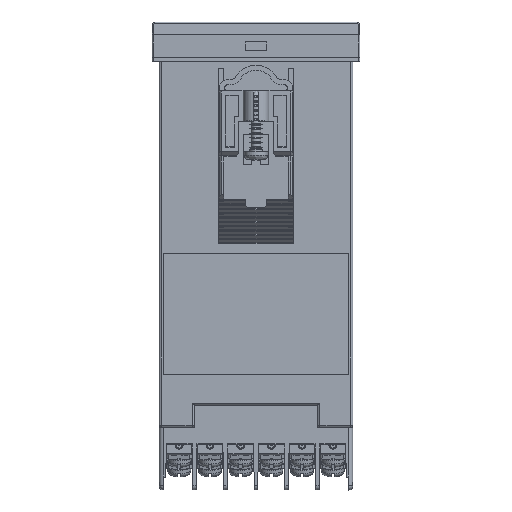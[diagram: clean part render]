
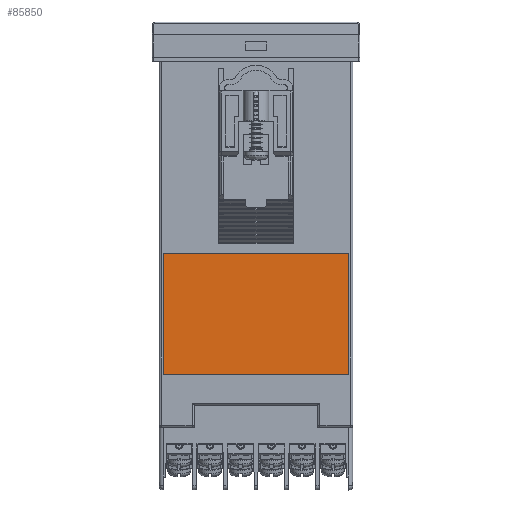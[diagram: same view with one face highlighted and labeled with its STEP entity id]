
A CAD part, front view. The second image highlights one B-rep face of the part: STEP entity #85850.
In plain terms, the highlighted planar face has unit normal (0, -1, 0).
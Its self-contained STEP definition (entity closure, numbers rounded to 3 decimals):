
#814 = LINE ( 'NONE', #193197, #352846 ) ;
#13796 = CARTESIAN_POINT ( 'NONE',  ( 21.4, -10.9, -78.65 ) ) ;
#15699 = EDGE_CURVE ( 'NONE', #271078, #320165, #203421, .T. ) ;
#22233 = ORIENTED_EDGE ( 'NONE', *, *, #347310, .F. ) ;
#37142 = DIRECTION ( 'NONE',  ( 0., 0., -1. ) ) ;
#37167 = ORIENTED_EDGE ( 'NONE', *, *, #216999, .F. ) ;
#58726 = DIRECTION ( 'NONE',  ( 0., -1., 0. ) ) ;
#74791 = VECTOR ( 'NONE', #263362, 1000. ) ;
#75160 = VECTOR ( 'NONE', #179735, 1000. ) ;
#79665 = DIRECTION ( 'NONE',  ( 1., 0., 0. ) ) ;
#85850 = ADVANCED_FACE ( 'NONE', ( #278864 ), #405286, .T. ) ;
#111728 = LINE ( 'NONE', #241999, #282909 ) ;
#114655 = AXIS2_PLACEMENT_3D ( 'NONE', #319531, #58726, #313153 ) ;
#117786 = LINE ( 'NONE', #143467, #75160 ) ;
#143467 = CARTESIAN_POINT ( 'NONE',  ( -21.4, -10.9, -50.65 ) ) ;
#169217 = CARTESIAN_POINT ( 'NONE',  ( 21.4, -10.9, -78.65 ) ) ;
#169646 = ORIENTED_EDGE ( 'NONE', *, *, #15699, .F. ) ;
#179735 = DIRECTION ( 'NONE',  ( 0., 0., 1. ) ) ;
#193197 = CARTESIAN_POINT ( 'NONE',  ( 21.4, -10.9, -50.65 ) ) ;
#203421 = LINE ( 'NONE', #169217, #74791 ) ;
#215764 = CARTESIAN_POINT ( 'NONE',  ( -21.4, -10.9, -78.65 ) ) ;
#216999 = EDGE_CURVE ( 'NONE', #259648, #352461, #111728, .T. ) ;
#241999 = CARTESIAN_POINT ( 'NONE',  ( 21.4, -10.9, -50.65 ) ) ;
#259648 = VERTEX_POINT ( 'NONE', #310775 ) ;
#263362 = DIRECTION ( 'NONE',  ( -1., 0., 0. ) ) ;
#271078 = VERTEX_POINT ( 'NONE', #13796 ) ;
#278864 = FACE_OUTER_BOUND ( 'NONE', #385694, .T. ) ;
#282909 = VECTOR ( 'NONE', #79665, 1000. ) ;
#310775 = CARTESIAN_POINT ( 'NONE',  ( -21.4, -10.9, -50.65 ) ) ;
#313153 = DIRECTION ( 'NONE',  ( -1., 0., 0. ) ) ;
#319531 = CARTESIAN_POINT ( 'NONE',  ( 21.4, -10.9, -50.65 ) ) ;
#320165 = VERTEX_POINT ( 'NONE', #215764 ) ;
#324248 = CARTESIAN_POINT ( 'NONE',  ( 21.4, -10.9, -50.65 ) ) ;
#327530 = ORIENTED_EDGE ( 'NONE', *, *, #352754, .F. ) ;
#347310 = EDGE_CURVE ( 'NONE', #320165, #259648, #117786, .T. ) ;
#352461 = VERTEX_POINT ( 'NONE', #324248 ) ;
#352754 = EDGE_CURVE ( 'NONE', #352461, #271078, #814, .T. ) ;
#352846 = VECTOR ( 'NONE', #37142, 1000. ) ;
#385694 = EDGE_LOOP ( 'NONE', ( #327530, #37167, #22233, #169646 ) ) ;
#405286 = PLANE ( 'NONE',  #114655 ) ;
